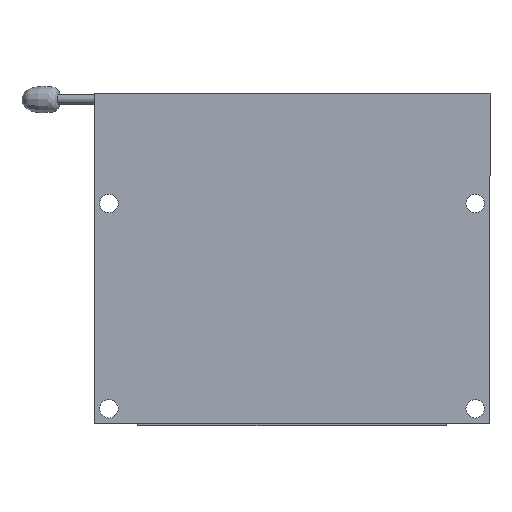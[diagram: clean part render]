
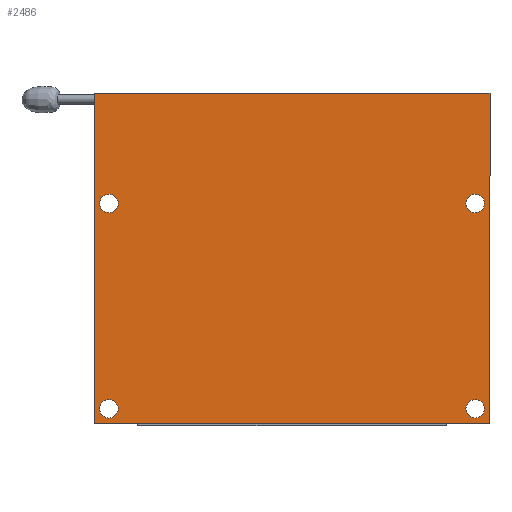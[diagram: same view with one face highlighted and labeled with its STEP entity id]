
A CAD part, front view. The second image highlights one B-rep face of the part: STEP entity #2486.
In plain terms, the highlighted planar face has unit normal (0, -1, 0).
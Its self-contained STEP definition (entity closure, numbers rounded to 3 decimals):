
#19 = VERTEX_POINT ( 'NONE', #4191 ) ;
#96 = CIRCLE ( 'NONE', #2916, 1.7 ) ;
#101 = DIRECTION ( 'NONE',  ( 0., 0., 1. ) ) ;
#132 = EDGE_CURVE ( 'NONE', #1503, #3259, #6948, .T. ) ;
#154 = CARTESIAN_POINT ( 'NONE',  ( -33.55, 0., -29.25 ) ) ;
#363 = ORIENTED_EDGE ( 'NONE', *, *, #2130, .F. ) ;
#496 = EDGE_LOOP ( 'NONE', ( #363 ) ) ;
#619 = CARTESIAN_POINT ( 'NONE',  ( -33.55, 0., 8.35 ) ) ;
#672 = DIRECTION ( 'NONE',  ( 0., -1., 0. ) ) ;
#785 = DIRECTION ( 'NONE',  ( 0., 0., -1. ) ) ;
#828 = CARTESIAN_POINT ( 'NONE',  ( 36.25, 0., 30.25 ) ) ;
#846 = VECTOR ( 'NONE', #785, 1000. ) ;
#1182 = DIRECTION ( 'NONE',  ( 0., 0., -1. ) ) ;
#1247 = CARTESIAN_POINT ( 'NONE',  ( 33.55, 0., 8.35 ) ) ;
#1284 = CARTESIAN_POINT ( 'NONE',  ( 36.25, 0., -30.25 ) ) ;
#1373 = EDGE_CURVE ( 'NONE', #4814, #4814, #5590, .T. ) ;
#1430 = CARTESIAN_POINT ( 'NONE',  ( 36.25, 0., -30.25 ) ) ;
#1497 = DIRECTION ( 'NONE',  ( -1., 0., 0. ) ) ;
#1503 = VERTEX_POINT ( 'NONE', #4736 ) ;
#1539 = CARTESIAN_POINT ( 'NONE',  ( -33.55, 0., -27.55 ) ) ;
#1561 = CARTESIAN_POINT ( 'NONE',  ( 33.55, 0., 10.05 ) ) ;
#1797 = EDGE_CURVE ( 'NONE', #6113, #6113, #96, .T. ) ;
#1902 = ORIENTED_EDGE ( 'NONE', *, *, #5871, .F. ) ;
#2007 = EDGE_LOOP ( 'NONE', ( #5062, #6675, #3608, #3888 ) ) ;
#2107 = FACE_OUTER_BOUND ( 'NONE', #2007, .T. ) ;
#2130 = EDGE_CURVE ( 'NONE', #3339, #3339, #3158, .T. ) ;
#2184 = ORIENTED_EDGE ( 'NONE', *, *, #1373, .F. ) ;
#2470 = VECTOR ( 'NONE', #2982, 1000. ) ;
#2486 = ADVANCED_FACE ( 'NONE', ( #4347, #3255, #3723, #4833, #2107 ), #6506, .T. ) ;
#2593 = DIRECTION ( 'NONE',  ( 0., 0., -1. ) ) ;
#2812 = CARTESIAN_POINT ( 'NONE',  ( -36.25, 0., -30.25 ) ) ;
#2916 = AXIS2_PLACEMENT_3D ( 'NONE', #1539, #4827, #2593 ) ;
#2982 = DIRECTION ( 'NONE',  ( 1., 0., 0. ) ) ;
#3041 = VERTEX_POINT ( 'NONE', #4481 ) ;
#3049 = CARTESIAN_POINT ( 'NONE',  ( 33.55, 0., -27.55 ) ) ;
#3158 = CIRCLE ( 'NONE', #4972, 1.7 ) ;
#3255 = FACE_BOUND ( 'NONE', #496, .T. ) ;
#3259 = VERTEX_POINT ( 'NONE', #2812 ) ;
#3339 = VERTEX_POINT ( 'NONE', #1247 ) ;
#3608 = ORIENTED_EDGE ( 'NONE', *, *, #6248, .F. ) ;
#3723 = FACE_BOUND ( 'NONE', #6334, .T. ) ;
#3879 = LINE ( 'NONE', #4554, #5205 ) ;
#3888 = ORIENTED_EDGE ( 'NONE', *, *, #5120, .F. ) ;
#3889 = CARTESIAN_POINT ( 'NONE',  ( 33.55, 0., -29.25 ) ) ;
#4000 = EDGE_LOOP ( 'NONE', ( #5956 ) ) ;
#4117 = LINE ( 'NONE', #828, #2470 ) ;
#4191 = CARTESIAN_POINT ( 'NONE',  ( -36.25, 0., 30.25 ) ) ;
#4251 = DIRECTION ( 'NONE',  ( 0., 0., -1. ) ) ;
#4286 = DIRECTION ( 'NONE',  ( 0., -1., 0. ) ) ;
#4347 = FACE_BOUND ( 'NONE', #6302, .T. ) ;
#4481 = CARTESIAN_POINT ( 'NONE',  ( 36.25, 0., 30.25 ) ) ;
#4496 = LINE ( 'NONE', #1284, #846 ) ;
#4554 = CARTESIAN_POINT ( 'NONE',  ( -36.25, 0., -30.25 ) ) ;
#4736 = CARTESIAN_POINT ( 'NONE',  ( 36.25, 0., -30.25 ) ) ;
#4801 = CARTESIAN_POINT ( 'NONE',  ( -33.55, 0., 10.05 ) ) ;
#4814 = VERTEX_POINT ( 'NONE', #3889 ) ;
#4827 = DIRECTION ( 'NONE',  ( 0., -1., 0. ) ) ;
#4833 = FACE_BOUND ( 'NONE', #4000, .T. ) ;
#4969 = DIRECTION ( 'NONE',  ( 0., 0., -1. ) ) ;
#4972 = AXIS2_PLACEMENT_3D ( 'NONE', #1561, #4286, #5902 ) ;
#5021 = VERTEX_POINT ( 'NONE', #619 ) ;
#5062 = ORIENTED_EDGE ( 'NONE', *, *, #5620, .F. ) ;
#5120 = EDGE_CURVE ( 'NONE', #19, #3041, #4117, .T. ) ;
#5205 = VECTOR ( 'NONE', #101, 1000. ) ;
#5326 = AXIS2_PLACEMENT_3D ( 'NONE', #4801, #5854, #1182 ) ;
#5503 = CARTESIAN_POINT ( 'NONE',  ( 0., 0., 0. ) ) ;
#5590 = CIRCLE ( 'NONE', #6505, 1.7 ) ;
#5620 = EDGE_CURVE ( 'NONE', #3259, #19, #3879, .T. ) ;
#5796 = DIRECTION ( 'NONE',  ( 0., -1., 0. ) ) ;
#5854 = DIRECTION ( 'NONE',  ( 0., -1., 0. ) ) ;
#5871 = EDGE_CURVE ( 'NONE', #5021, #5021, #6568, .T. ) ;
#5902 = DIRECTION ( 'NONE',  ( 0., 0., -1. ) ) ;
#5956 = ORIENTED_EDGE ( 'NONE', *, *, #1797, .F. ) ;
#6113 = VERTEX_POINT ( 'NONE', #154 ) ;
#6214 = VECTOR ( 'NONE', #1497, 1000. ) ;
#6248 = EDGE_CURVE ( 'NONE', #3041, #1503, #4496, .T. ) ;
#6302 = EDGE_LOOP ( 'NONE', ( #2184 ) ) ;
#6334 = EDGE_LOOP ( 'NONE', ( #1902 ) ) ;
#6505 = AXIS2_PLACEMENT_3D ( 'NONE', #3049, #5796, #4251 ) ;
#6506 = PLANE ( 'NONE',  #6787 ) ;
#6568 = CIRCLE ( 'NONE', #5326, 1.7 ) ;
#6675 = ORIENTED_EDGE ( 'NONE', *, *, #132, .F. ) ;
#6787 = AXIS2_PLACEMENT_3D ( 'NONE', #5503, #672, #4969 ) ;
#6948 = LINE ( 'NONE', #1430, #6214 ) ;
